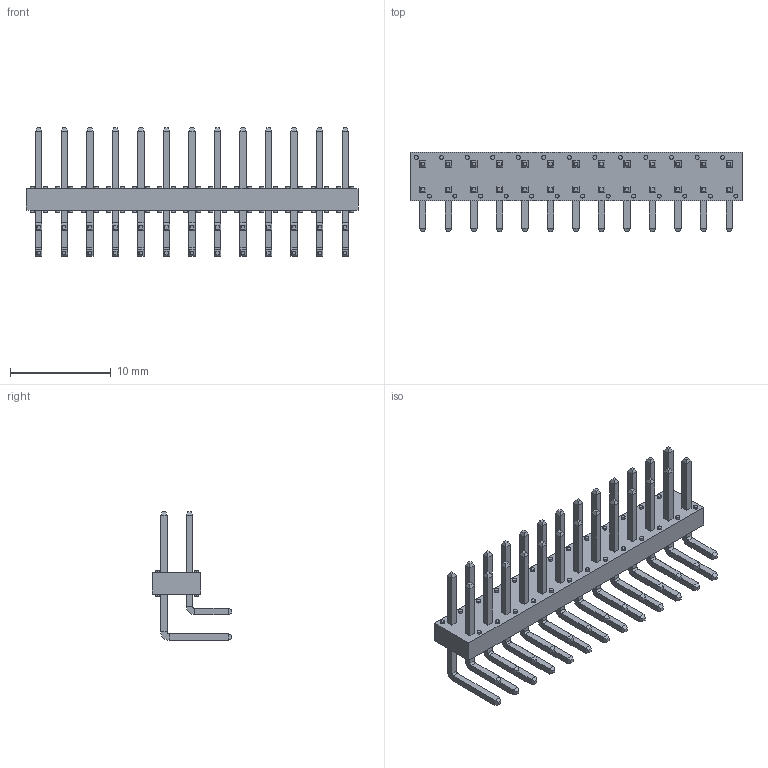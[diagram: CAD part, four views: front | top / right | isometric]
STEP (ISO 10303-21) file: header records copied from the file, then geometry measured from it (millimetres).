
FILE_DESCRIPTION (( 'STEP AP214' ), '1' );
FILE_NAME ('68021126HLF.STEP', '2022-01-31T20:48:55', ( '' ), ( '' ), 'SwSTEP 2.0', 'SolidWorks 2020', '' );
FILE_SCHEMA (( 'AUTOMOTIVE_DESIGN' ));
Length unit declared in the file: millimetre
Products named in the file (1): 68021126HLF
Bounding box: 33.02 x 7.89 x 12.76 mm (x, y, z)
Volume: 492.5 mm3; surface area: 1706.9 mm2
Topology: 27 solids, 27 shells, 838 faces, 1780 edges, 1048 vertices
Faces by surface type: plane 682, cylinder 156
Entity records: 27968 total; most frequent: DIRECTION 3770, CARTESIAN_POINT 3667, ORIENTED_EDGE 3560, EDGE_CURVE 1780, VECTOR 1468, LINE 1468, AXIS2_PLACEMENT_3D 1151, VERTEX_POINT 1048
